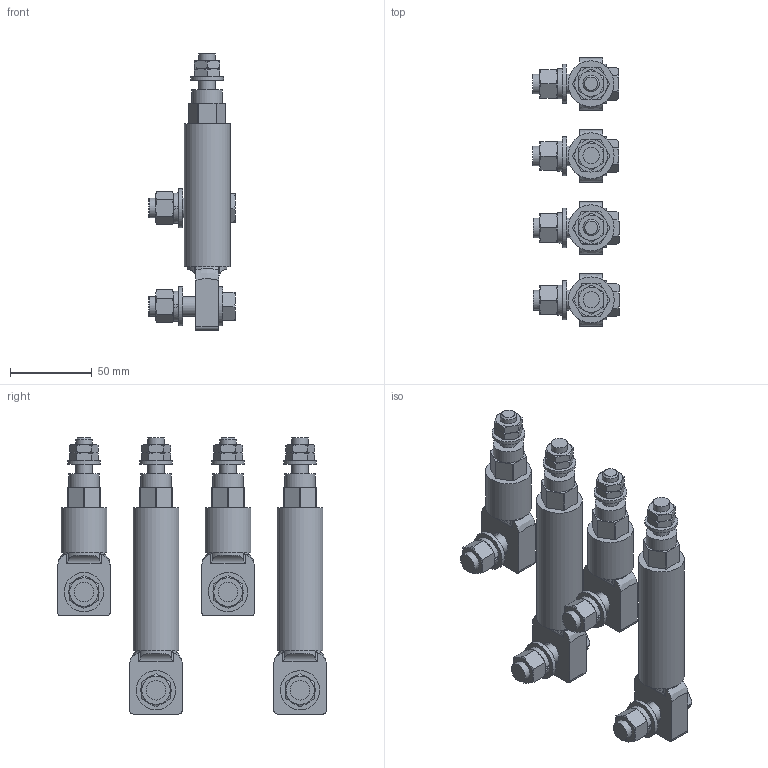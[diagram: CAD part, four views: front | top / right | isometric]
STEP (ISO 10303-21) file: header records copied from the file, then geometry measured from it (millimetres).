
FILE_DESCRIPTION(/* description */ (''),/* implementation_level */ '2;1');
FILE_NAME(/* name */ '_model1.stp',/* time_stamp */ '2023-04-07T08:51:41+08:00',/* author */ (''),/* organization */ (''),/* preprocessor_version */ 'ST-DEVELOPER v16.7',/* originating_system */ 'SIEMENS PLM Software NX 12.0',/* authorisation */ '');
FILE_SCHEMA (('AUTOMOTIVE_DESIGN { 1 0 10303 214 3 1 1 1 }'));
Length unit declared in the file: millimetre
Products named in the file (1): _model1
Bounding box: 52.6 x 164.01 x 168.6 mm (x, y, z)
Volume: 278872.1 mm3; surface area: 103788.8 mm2
Topology: 4 solids, 4 shells, 558 faces, 1304 edges, 818 vertices
Faces by surface type: plane 244, cone 170, cylinder 128, bspline 8, torus 8
Full cylindrical faces by diameter (mm): 10 x8, 10.5 x4, 12 x8, 13 x8, 18.6 x4, 20 x4, 24 x12, 24.5 x4, 26 x4, 28 x4
Entity records: 16147 total; most frequent: CARTESIAN_POINT 4443, ORIENTED_EDGE 2396, DIRECTION 2266, EDGE_CURVE 1198, AXIS2_PLACEMENT_3D 941, VERTEX_POINT 774, EDGE_LOOP 692, ADVANCED_FACE 558
